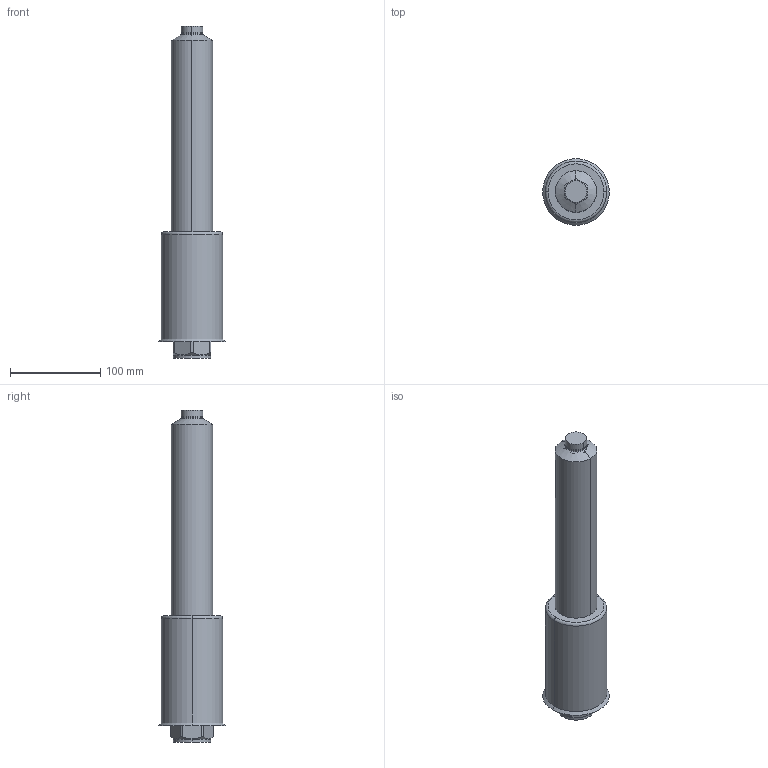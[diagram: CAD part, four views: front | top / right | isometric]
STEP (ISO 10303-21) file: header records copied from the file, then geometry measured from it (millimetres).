
FILE_DESCRIPTION (( 'STEP AP214' ), '1' );
FILE_NAME ('T16_CLOSED_350_BAND.STEP', '2009-05-11T12:58:59', ( 'Synventive Molding Solutions' ), ( 'Synventive Molding Solutions' ), 'SwSTEP 2.0', 'SolidWorks 2008', '' );
FILE_SCHEMA (( 'AUTOMOTIVE_DESIGN' ));
Length unit declared in the file: millimetre
Products named in the file (1): T16_CLOSED_350_BAND
Bounding box: 74 x 74 x 368 mm (x, y, z)
Volume: 1319789.5 mm3; surface area: 126612.5 mm2
Topology: 4 solids, 4 shells, 370 faces, 958 edges, 602 vertices
Faces by surface type: cylinder 146, plane 145, torus 55, cone 16, sphere 4, bspline 4
Entity records: 16726 total; most frequent: CARTESIAN_POINT 3478, DIRECTION 1972, ORIENTED_EDGE 1908, EDGE_CURVE 954, AXIS2_PLACEMENT_3D 759, VERTEX_POINT 602, LINE 454, VECTOR 454
